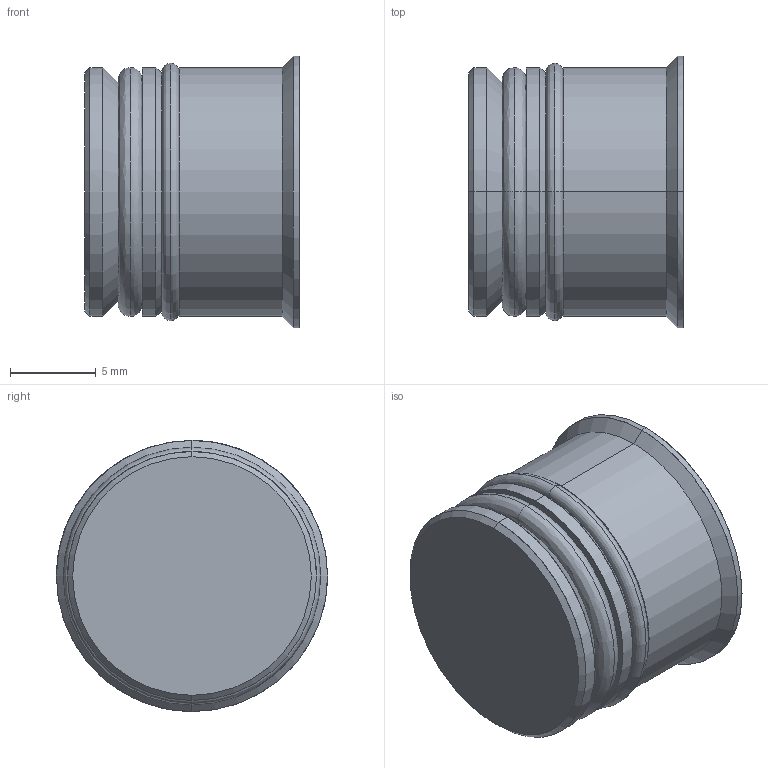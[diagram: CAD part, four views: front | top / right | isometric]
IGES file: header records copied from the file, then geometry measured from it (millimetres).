
Start section: START RECORD GO HERE.
Global section: file name: TR-14.igs; native system: DASSAULT SYSTEMES CATIA V5 R20 - www.3ds.com; preprocessor: CATIA Version 5 Release 20 ; author: Utente; organization: NB04-ASUS; date: 20210223.202131; units: millimetre
Bounding box: 12.5 x 15.8 x 15.8 mm (x, y, z)
Surface area: 1234.2 mm2 (no closed solid volume)
Topology: 0 solids, 0 shells, 47 faces, 264 edges, 264 vertices
Faces by surface type: revolution 28, plane 19
